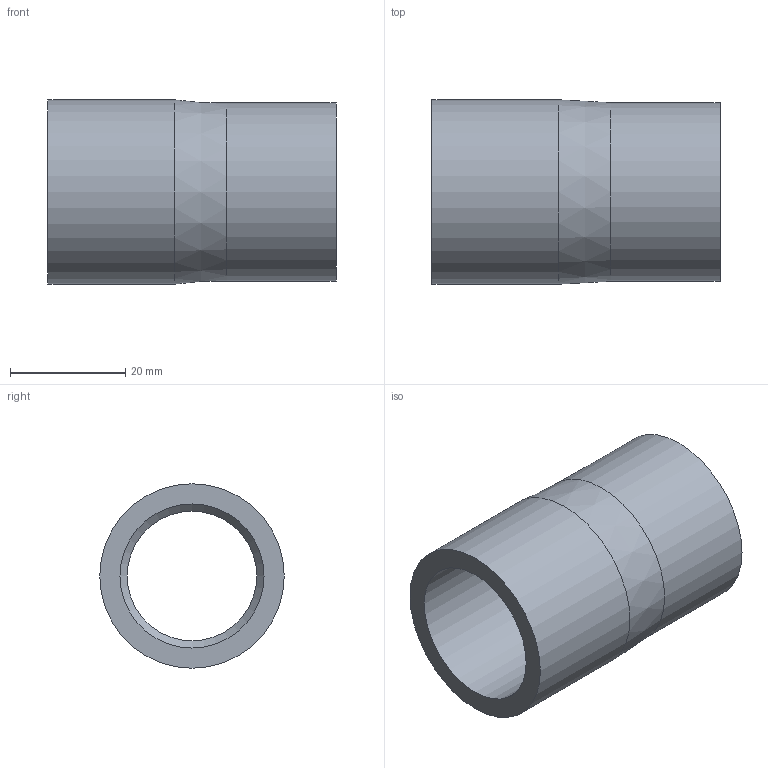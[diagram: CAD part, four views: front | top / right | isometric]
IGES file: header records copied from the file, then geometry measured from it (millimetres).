
Global section: file name: 050200032025.ipt; native system: Autodesk Inventor 2015; preprocessor: unknown; author: KIM; date: 20171207.164145; units: millimetre
Bounding box: 50 x 32 x 32 mm (x, y, z)
Volume: 15566.7 mm3; surface area: 9500.9 mm2
Topology: 1 solids, 1 shells, 10 faces, 23 edges, 16 vertices
Faces by surface type: revolution 4, plane 3, cylinder 2, cone 1
Full cylindrical faces by diameter (mm): 31 x1, 32 x1
